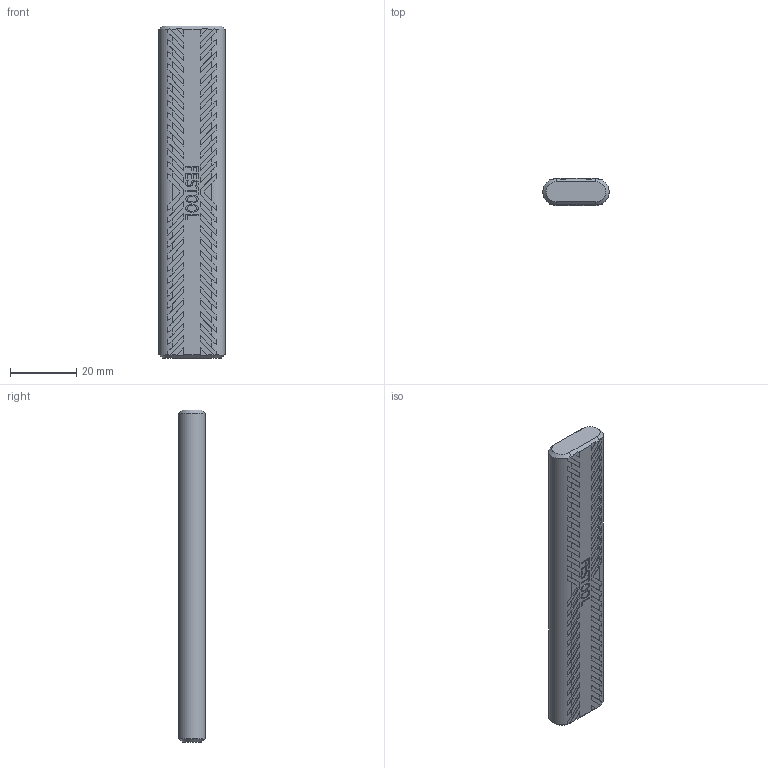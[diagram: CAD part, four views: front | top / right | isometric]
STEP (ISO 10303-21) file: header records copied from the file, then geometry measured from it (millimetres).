
FILE_DESCRIPTION(('Creo Elements/Direct Modeling STEP Export'),'2;1');
FILE_NAME('Domino_8x100.stp','2024-01-19T 8:05:11',(''),(''),'Creo Elements/Direct Modeling STEP processor for AP214 (Solid Model)','Creo Elements/Direct Modeling 20.5A 14-Oct-2022 (C) Parametric Technology GmbH','');
FILE_SCHEMA(('AUTOMOTIVE_DESIGN { 1 0 10303 214 1 1 1 1 }'));
Length unit declared in the file: millimetre
Products named in the file (1): 8x100_00701390
Bounding box: 19.97 x 8 x 100 mm (x, y, z)
Volume: 14412 mm3; surface area: 5494.8 mm2
Topology: 1 solids, 1 shells, 1036 faces, 3021 edges, 2014 vertices
Faces by surface type: plane 1030, cone 4, cylinder 2
Entity records: 33594 total; most frequent: CARTESIAN_POINT 6255, ORIENTED_EDGE 6042, DIRECTION 5169, EDGE_CURVE 3021, VECTOR 2689, LINE 2689, VERTEX_POINT 2014, AXIS2_PLACEMENT_3D 1240
